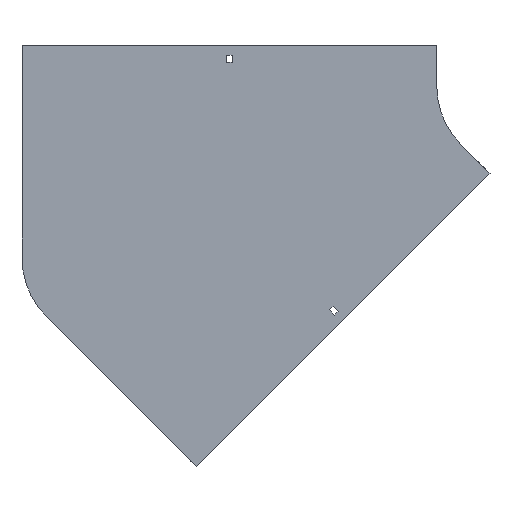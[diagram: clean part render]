
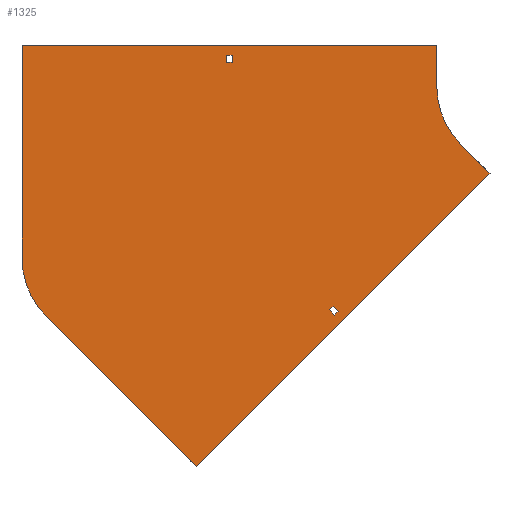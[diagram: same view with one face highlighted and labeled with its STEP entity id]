
A CAD part, front view. The second image highlights one B-rep face of the part: STEP entity #1325.
In plain terms, the highlighted planar face has unit normal (0, -1, 0).
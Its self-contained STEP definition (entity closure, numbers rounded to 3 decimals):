
#13 = EDGE_CURVE ( 'NONE', #309, #1391, #1207, .T. ) ;
#15 = CARTESIAN_POINT ( 'NONE',  ( -100., 0., 0. ) ) ;
#22 = CARTESIAN_POINT ( 'NONE',  ( -348.75, 0., 38. ) ) ;
#45 = CARTESIAN_POINT ( 'NONE',  ( -70.711, 0., -70.711 ) ) ;
#51 = VECTOR ( 'NONE', #1312, 1000. ) ;
#53 = ORIENTED_EDGE ( 'NONE', *, *, #1086, .F. ) ;
#60 = VERTEX_POINT ( 'NONE', #45 ) ;
#69 = EDGE_LOOP ( 'NONE', ( #53, #625, #496, #1272, #870, #750, #327, #817 ) ) ;
#71 = CARTESIAN_POINT ( 'NONE',  ( 0., 0., 0. ) ) ;
#72 = VERTEX_POINT ( 'NONE', #245 ) ;
#83 = LINE ( 'NONE', #402, #863 ) ;
#92 = EDGE_CURVE ( 'NONE', #250, #581, #1239, .T. ) ;
#96 = EDGE_CURVE ( 'NONE', #546, #954, #368, .T. ) ;
#100 = CARTESIAN_POINT ( 'NONE',  ( -35.355, 0., -106.066 ) ) ;
#102 = DIRECTION ( 'NONE',  ( -0.707, 0., -0.707 ) ) ;
#103 = LINE ( 'NONE', #922, #1305 ) ;
#110 = DIRECTION ( 'NONE',  ( 0.707, 0., -0.707 ) ) ;
#169 = CARTESIAN_POINT ( 'NONE',  ( 0., 0., 0. ) ) ;
#176 = EDGE_CURVE ( 'NONE', #954, #982, #1169, .T. ) ;
#187 = CIRCLE ( 'NONE', #437, 100. ) ;
#190 = CIRCLE ( 'NONE', #972, 100. ) ;
#195 = DIRECTION ( 'NONE',  ( -0.707, 0., 0.707 ) ) ;
#237 = EDGE_LOOP ( 'NONE', ( #1202, #961, #1250, #1034 ) ) ;
#240 = EDGE_CURVE ( 'NONE', #60, #546, #970, .T. ) ;
#245 = CARTESIAN_POINT ( 'NONE',  ( -604., 0., -208.764 ) ) ;
#250 = VERTEX_POINT ( 'NONE', #544 ) ;
#254 = CARTESIAN_POINT ( 'NONE',  ( -226.097, 0., -267.11 ) ) ;
#264 = LINE ( 'NONE', #1123, #478 ) ;
#270 = DIRECTION ( 'NONE',  ( 0.707, 0., -0.707 ) ) ;
#276 = VERTEX_POINT ( 'NONE', #1229 ) ;
#284 = PLANE ( 'NONE',  #917 ) ;
#309 = VERTEX_POINT ( 'NONE', #882 ) ;
#319 = DIRECTION ( 'NONE',  ( 0., 0., 1. ) ) ;
#323 = VECTOR ( 'NONE', #913, 1000. ) ;
#324 = CARTESIAN_POINT ( 'NONE',  ( -391.737, 0., -462.448 ) ) ;
#327 = ORIENTED_EDGE ( 'NONE', *, *, #508, .F. ) ;
#354 = EDGE_CURVE ( 'NONE', #1391, #1016, #685, .T. ) ;
#368 = LINE ( 'NONE', #689, #1021 ) ;
#377 = CARTESIAN_POINT ( 'NONE',  ( -100., 0., 50. ) ) ;
#384 = FACE_BOUND ( 'NONE', #237, .T. ) ;
#388 = EDGE_CURVE ( 'NONE', #687, #309, #789, .T. ) ;
#402 = CARTESIAN_POINT ( 'NONE',  ( -224.33, 0., -278.07 ) ) ;
#427 = DIRECTION ( 'NONE',  ( 0., 1., 0. ) ) ;
#430 = EDGE_LOOP ( 'NONE', ( #889, #1373, #781, #1394 ) ) ;
#437 = AXIS2_PLACEMENT_3D ( 'NONE', #1171, #427, #319 ) ;
#440 = CARTESIAN_POINT ( 'NONE',  ( -348.75, 0., 29. ) ) ;
#452 = CARTESIAN_POINT ( 'NONE',  ( -355.25, 0., 29. ) ) ;
#471 = LINE ( 'NONE', #377, #826 ) ;
#478 = VECTOR ( 'NONE', #270, 1000. ) ;
#495 = CARTESIAN_POINT ( 'NONE',  ( -391.737, 0., -462.448 ) ) ;
#496 = ORIENTED_EDGE ( 'NONE', *, *, #1143, .F. ) ;
#508 = EDGE_CURVE ( 'NONE', #620, #60, #190, .T. ) ;
#544 = CARTESIAN_POINT ( 'NONE',  ( -219.733, 0., -273.474 ) ) ;
#546 = VERTEX_POINT ( 'NONE', #100 ) ;
#580 = CARTESIAN_POINT ( 'NONE',  ( -355.25, 0., 38. ) ) ;
#581 = VERTEX_POINT ( 'NONE', #941 ) ;
#586 = EDGE_CURVE ( 'NONE', #1142, #250, #83, .T. ) ;
#590 = CARTESIAN_POINT ( 'NONE',  ( -230.694, 0., -271.706 ) ) ;
#597 = DIRECTION ( 'NONE',  ( 0., 0., -1. ) ) ;
#620 = VERTEX_POINT ( 'NONE', #15 ) ;
#622 = VECTOR ( 'NONE', #110, 1000. ) ;
#625 = ORIENTED_EDGE ( 'NONE', *, *, #733, .F. ) ;
#657 = VERTEX_POINT ( 'NONE', #975 ) ;
#682 = DIRECTION ( 'NONE',  ( -0.707, 0., 0.707 ) ) ;
#685 = LINE ( 'NONE', #580, #1095 ) ;
#687 = VERTEX_POINT ( 'NONE', #1297 ) ;
#689 = CARTESIAN_POINT ( 'NONE',  ( -35.355, 0., -106.066 ) ) ;
#711 = DIRECTION ( 'NONE',  ( 0., 0., -1. ) ) ;
#716 = CARTESIAN_POINT ( 'NONE',  ( -224.33, 0., -278.07 ) ) ;
#726 = VECTOR ( 'NONE', #682, 1000. ) ;
#733 = EDGE_CURVE ( 'NONE', #72, #657, #1051, .T. ) ;
#736 = VERTEX_POINT ( 'NONE', #590 ) ;
#750 = ORIENTED_EDGE ( 'NONE', *, *, #240, .F. ) ;
#774 = VECTOR ( 'NONE', #102, 1000. ) ;
#781 = ORIENTED_EDGE ( 'NONE', *, *, #877, .F. ) ;
#789 = LINE ( 'NONE', #903, #1127 ) ;
#792 = DIRECTION ( 'NONE',  ( -0.707, 0., -0.707 ) ) ;
#803 = DIRECTION ( 'NONE',  ( 0., 0., -1. ) ) ;
#810 = FACE_BOUND ( 'NONE', #430, .T. ) ;
#817 = ORIENTED_EDGE ( 'NONE', *, *, #1299, .F. ) ;
#825 = DIRECTION ( 'NONE',  ( 0.707, 0., 0.707 ) ) ;
#826 = VECTOR ( 'NONE', #803, 1000. ) ;
#860 = LINE ( 'NONE', #440, #51 ) ;
#863 = VECTOR ( 'NONE', #825, 1000. ) ;
#864 = DIRECTION ( 'NONE',  ( 0., 0., 1. ) ) ;
#870 = ORIENTED_EDGE ( 'NONE', *, *, #96, .F. ) ;
#873 = EDGE_CURVE ( 'NONE', #1016, #687, #860, .T. ) ;
#877 = EDGE_CURVE ( 'NONE', #581, #736, #968, .T. ) ;
#882 = CARTESIAN_POINT ( 'NONE',  ( -355.25, 0., 29. ) ) ;
#889 = ORIENTED_EDGE ( 'NONE', *, *, #586, .F. ) ;
#895 = DIRECTION ( 'NONE',  ( 1., 0., 0. ) ) ;
#903 = CARTESIAN_POINT ( 'NONE',  ( -355.25, 0., 29. ) ) ;
#913 = DIRECTION ( 'NONE',  ( 0., 0., 1. ) ) ;
#917 = AXIS2_PLACEMENT_3D ( 'NONE', #71, #1161, #711 ) ;
#922 = CARTESIAN_POINT ( 'NONE',  ( -604., 0., 50. ) ) ;
#941 = CARTESIAN_POINT ( 'NONE',  ( -226.097, 0., -267.11 ) ) ;
#954 = VERTEX_POINT ( 'NONE', #324 ) ;
#961 = ORIENTED_EDGE ( 'NONE', *, *, #354, .T. ) ;
#968 = LINE ( 'NONE', #1298, #774 ) ;
#970 = LINE ( 'NONE', #1193, #622 ) ;
#972 = AXIS2_PLACEMENT_3D ( 'NONE', #169, #1269, #597 ) ;
#975 = CARTESIAN_POINT ( 'NONE',  ( -604., 0., 50. ) ) ;
#982 = VERTEX_POINT ( 'NONE', #1215 ) ;
#997 = VECTOR ( 'NONE', #864, 1000. ) ;
#1016 = VERTEX_POINT ( 'NONE', #22 ) ;
#1021 = VECTOR ( 'NONE', #792, 1000. ) ;
#1034 = ORIENTED_EDGE ( 'NONE', *, *, #388, .T. ) ;
#1051 = LINE ( 'NONE', #1371, #323 ) ;
#1086 = EDGE_CURVE ( 'NONE', #657, #276, #103, .T. ) ;
#1095 = VECTOR ( 'NONE', #895, 1000. ) ;
#1123 = CARTESIAN_POINT ( 'NONE',  ( -230.694, 0., -271.706 ) ) ;
#1127 = VECTOR ( 'NONE', #1345, 1000. ) ;
#1142 = VERTEX_POINT ( 'NONE', #716 ) ;
#1143 = EDGE_CURVE ( 'NONE', #982, #72, #187, .T. ) ;
#1161 = DIRECTION ( 'NONE',  ( 0., -1., 0. ) ) ;
#1169 = LINE ( 'NONE', #495, #1405 ) ;
#1171 = CARTESIAN_POINT ( 'NONE',  ( -504., 0., -208.764 ) ) ;
#1186 = EDGE_CURVE ( 'NONE', #736, #1142, #264, .T. ) ;
#1193 = CARTESIAN_POINT ( 'NONE',  ( -70.711, 0., -70.711 ) ) ;
#1202 = ORIENTED_EDGE ( 'NONE', *, *, #13, .T. ) ;
#1207 = LINE ( 'NONE', #452, #997 ) ;
#1215 = CARTESIAN_POINT ( 'NONE',  ( -574.711, 0., -279.474 ) ) ;
#1229 = CARTESIAN_POINT ( 'NONE',  ( -100., 0., 50. ) ) ;
#1239 = LINE ( 'NONE', #254, #726 ) ;
#1250 = ORIENTED_EDGE ( 'NONE', *, *, #873, .T. ) ;
#1269 = DIRECTION ( 'NONE',  ( 0., -1., 0. ) ) ;
#1272 = ORIENTED_EDGE ( 'NONE', *, *, #176, .F. ) ;
#1280 = CARTESIAN_POINT ( 'NONE',  ( -355.25, 0., 38. ) ) ;
#1297 = CARTESIAN_POINT ( 'NONE',  ( -348.75, 0., 29. ) ) ;
#1298 = CARTESIAN_POINT ( 'NONE',  ( -230.694, 0., -271.706 ) ) ;
#1299 = EDGE_CURVE ( 'NONE', #276, #620, #471, .T. ) ;
#1305 = VECTOR ( 'NONE', #1400, 1000. ) ;
#1312 = DIRECTION ( 'NONE',  ( 0., 0., -1. ) ) ;
#1325 = ADVANCED_FACE ( 'NONE', ( #384, #1358, #810 ), #284, .T. ) ;
#1345 = DIRECTION ( 'NONE',  ( -1., 0., 0. ) ) ;
#1358 = FACE_OUTER_BOUND ( 'NONE', #69, .T. ) ;
#1371 = CARTESIAN_POINT ( 'NONE',  ( -604., 0., -208.764 ) ) ;
#1373 = ORIENTED_EDGE ( 'NONE', *, *, #1186, .F. ) ;
#1391 = VERTEX_POINT ( 'NONE', #1280 ) ;
#1394 = ORIENTED_EDGE ( 'NONE', *, *, #92, .F. ) ;
#1400 = DIRECTION ( 'NONE',  ( 1., 0., 0. ) ) ;
#1405 = VECTOR ( 'NONE', #195, 1000. ) ;
